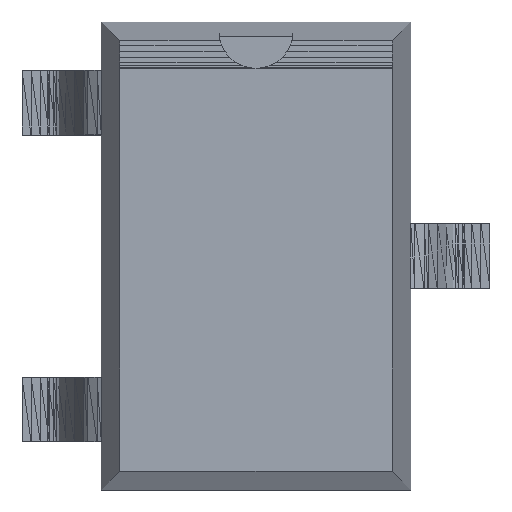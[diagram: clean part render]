
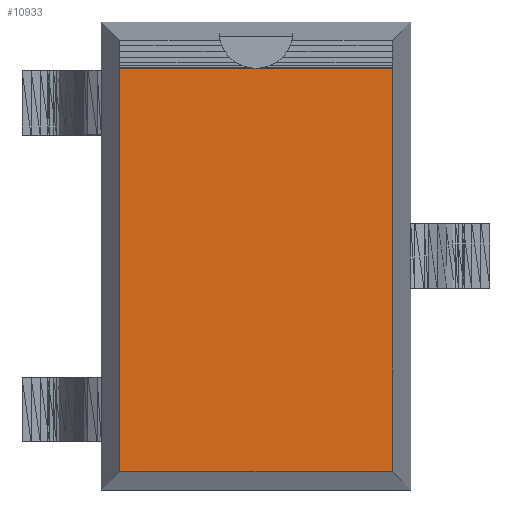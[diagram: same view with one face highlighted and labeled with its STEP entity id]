
A CAD part, top view. The second image highlights one B-rep face of the part: STEP entity #10933.
In plain terms, the highlighted planar face has unit normal (0, 0, 1).
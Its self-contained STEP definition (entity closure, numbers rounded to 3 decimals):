
#10008 = CARTESIAN_POINT('',(-0.845,-1.335,1.155));
#10009 = VERTEX_POINT('',#10008);
#10010 = CARTESIAN_POINT('',(-0.845,1.162,1.155));
#10011 = VERTEX_POINT('',#10010);
#10035 = DIRECTION('',(0.,1.,0.));
#10036 = VECTOR('',#10035,1.);
#10037 = LINE('',#10008,#10036);
#10038 = EDGE_CURVE('',#10009,#10011,#10037,.T.);
#10097 = CARTESIAN_POINT('',(0.845,1.162,1.155));
#10098 = VERTEX_POINT('',#10097);
#10099 = CARTESIAN_POINT('',(0.845,-1.335,1.155));
#10100 = VERTEX_POINT('',#10099);
#10142 = DIRECTION('',(0.,1.,0.));
#10143 = VECTOR('',#10142,1.);
#10144 = LINE('',#10099,#10143);
#10145 = EDGE_CURVE('',#10100,#10098,#10144,.T.);
#10161 = DIRECTION('',(1.,0.,0.));
#10162 = VECTOR('',#10161,1.);
#10163 = LINE('',#10008,#10162);
#10164 = EDGE_CURVE('',#10009,#10100,#10163,.T.);
#10419 = CARTESIAN_POINT('',(0.,1.162,1.155));
#10420 = VERTEX_POINT('',#10419);
#10890 = DIRECTION('',(1.,0.,0.));
#10891 = VECTOR('',#10890,1.);
#10892 = LINE('',#10419,#10891);
#10893 = EDGE_CURVE('',#10420,#10098,#10892,.T.);
#10906 = DIRECTION('',(1.,0.,0.));
#10907 = VECTOR('',#10906,1.);
#10908 = LINE('',#10010,#10907);
#10909 = EDGE_CURVE('',#10011,#10420,#10908,.T.);
#10921 = ORIENTED_EDGE('',*,*,#10038,.F.);
#10922 = ORIENTED_EDGE('',*,*,#10164,.T.);
#10923 = ORIENTED_EDGE('',*,*,#10145,.T.);
#10924 = ORIENTED_EDGE('',*,*,#10893,.F.);
#10925 = ORIENTED_EDGE('',*,*,#10909,.F.);
#10926 = CARTESIAN_POINT('',(-0.845,1.162,1.155));
#10927 = DIRECTION('',(0.,0.,1.));
#10928 = DIRECTION('',(0.,-1.,0.));
#10929 = AXIS2_PLACEMENT_3D('',#10926,#10927,#10928);
#10930 = PLANE('',#10929);
#10931 = EDGE_LOOP('',(#10921,#10922,#10923,#10924,#10925));
#10932 = FACE_OUTER_BOUND('',#10931,.T.);
#10933 = ADVANCED_FACE('',(#10932),#10930,.T.);
